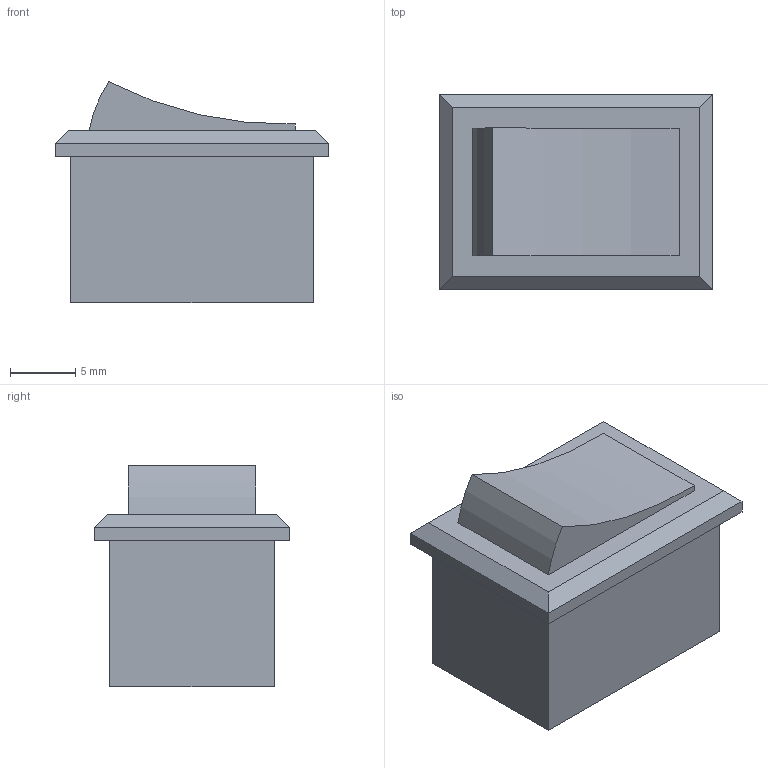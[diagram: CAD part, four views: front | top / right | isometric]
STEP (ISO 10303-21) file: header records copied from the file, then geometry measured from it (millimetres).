
FILE_DESCRIPTION(/* description */ ('STEP AP242','CAx-IF Rec.Pracs.---Representation and Presentation of Product Manufacturing Information (PMI)---4.0---2014-10-13','CAx-IF Rec.Pracs.---3D Tessellated Geometry---0.4---2014-09-14','2;1'),/* implementation_level */ '2;1');
FILE_NAME(/* name */ 'Arm Assembly - Part 1 (2)',/* time_stamp */ '2025-06-20T22:34:14Z',/* author */ (''),/* organization */ (''),/* preprocessor_version */ 'ST-DEVELOPER v20',/* originating_system */ 'ONSHAPE BY PTC INC, 1.199',/* authorisation */ ' ');
FILE_SCHEMA (('AP242_MANAGED_MODEL_BASED_3D_ENGINEERING_MIM_LF { 1 0 10303 442 1 1 4 }'));
Length unit declared in the file: metre
Products named in the file (1): Part 1
Bounding box: 21 x 15 x 16.95 mm (x, y, z)
Volume: 3459.8 mm3; surface area: 1513 mm2
Topology: 1 solids, 1 shells, 20 faces, 44 edges, 28 vertices
Faces by surface type: plane 18, cylinder 2
Entity records: 562 total; most frequent: CARTESIAN_POINT 93, DIRECTION 90, ORIENTED_EDGE 88, EDGE_CURVE 44, LINE 40, VECTOR 40, VERTEX_POINT 28, AXIS2_PLACEMENT_3D 25
